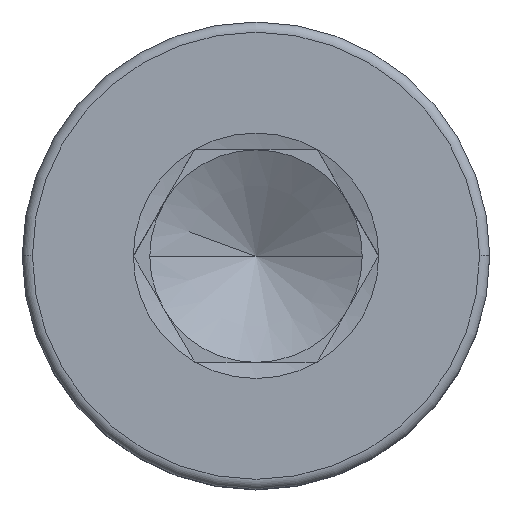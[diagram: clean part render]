
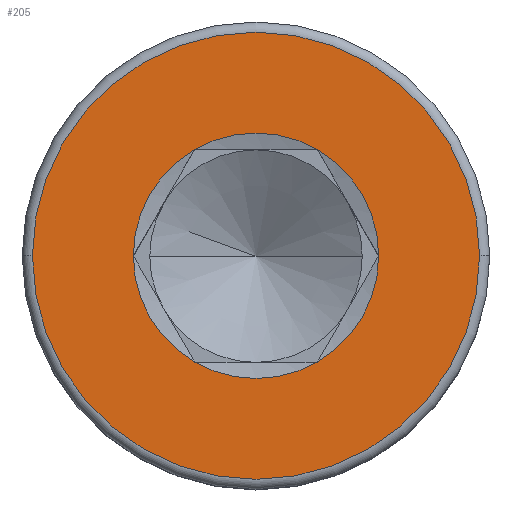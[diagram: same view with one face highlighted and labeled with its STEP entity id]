
A CAD part, top view. The second image highlights one B-rep face of the part: STEP entity #205.
In plain terms, the highlighted planar face has unit normal (0, 0, 1).
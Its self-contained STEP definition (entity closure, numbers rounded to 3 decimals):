
#9 = EDGE_LOOP ( 'NONE', ( #14, #470, #943, #1141, #979, #1575 ) ) ;
#14 = ORIENTED_EDGE ( 'NONE', *, *, #1843, .F. ) ;
#38 = DIRECTION ( 'NONE',  ( 0., 0., 1. ) ) ;
#52 = DIRECTION ( 'NONE',  ( 1., 0., 0. ) ) ;
#74 = VERTEX_POINT ( 'NONE', #1741 ) ;
#173 = CIRCLE ( 'NONE', #1610, 1.443 ) ;
#175 = CIRCLE ( 'NONE', #906, 1.443 ) ;
#186 = CARTESIAN_POINT ( 'NONE',  ( 0., 0., 3. ) ) ;
#205 = ADVANCED_FACE ( 'NONE', ( #920, #1188 ), #621, .T. ) ;
#206 = DIRECTION ( 'NONE',  ( 1., 0., 0. ) ) ;
#221 = CARTESIAN_POINT ( 'NONE',  ( -0.722, -1.25, 3. ) ) ;
#239 = CIRCLE ( 'NONE', #1788, 2.63 ) ;
#249 = DIRECTION ( 'NONE',  ( 0., 0., 1. ) ) ;
#321 = AXIS2_PLACEMENT_3D ( 'NONE', #186, #773, #52 ) ;
#380 = DIRECTION ( 'NONE',  ( 1., 0., 0. ) ) ;
#391 = VERTEX_POINT ( 'NONE', #1097 ) ;
#405 = EDGE_CURVE ( 'NONE', #1495, #1871, #239, .T. ) ;
#443 = CARTESIAN_POINT ( 'NONE',  ( 0.722, -1.25, 3. ) ) ;
#456 = DIRECTION ( 'NONE',  ( 0., 0., 1. ) ) ;
#470 = ORIENTED_EDGE ( 'NONE', *, *, #1595, .F. ) ;
#476 = CIRCLE ( 'NONE', #543, 1.443 ) ;
#484 = EDGE_LOOP ( 'NONE', ( #1581, #1534 ) ) ;
#512 = CARTESIAN_POINT ( 'NONE',  ( 0., 0., 3. ) ) ;
#517 = VERTEX_POINT ( 'NONE', #1267 ) ;
#541 = AXIS2_PLACEMENT_3D ( 'NONE', #1781, #456, #1319 ) ;
#543 = AXIS2_PLACEMENT_3D ( 'NONE', #1728, #1240, #1569 ) ;
#567 = CIRCLE ( 'NONE', #1549, 2.63 ) ;
#621 = PLANE ( 'NONE',  #541 ) ;
#624 = VERTEX_POINT ( 'NONE', #997 ) ;
#675 = VERTEX_POINT ( 'NONE', #443 ) ;
#722 = CIRCLE ( 'NONE', #1083, 1.443 ) ;
#754 = EDGE_CURVE ( 'NONE', #74, #517, #722, .T. ) ;
#773 = DIRECTION ( 'NONE',  ( 0., 0., 1. ) ) ;
#776 = AXIS2_PLACEMENT_3D ( 'NONE', #1352, #38, #1513 ) ;
#824 = EDGE_CURVE ( 'NONE', #517, #391, #1857, .T. ) ;
#825 = DIRECTION ( 'NONE',  ( 0., 0., 1. ) ) ;
#831 = DIRECTION ( 'NONE',  ( 1., 0., 0. ) ) ;
#890 = CARTESIAN_POINT ( 'NONE',  ( 2.63, 0., 3. ) ) ;
#906 = AXIS2_PLACEMENT_3D ( 'NONE', #1027, #1468, #1614 ) ;
#920 = FACE_OUTER_BOUND ( 'NONE', #484, .T. ) ;
#943 = ORIENTED_EDGE ( 'NONE', *, *, #1449, .F. ) ;
#979 = ORIENTED_EDGE ( 'NONE', *, *, #824, .F. ) ;
#997 = CARTESIAN_POINT ( 'NONE',  ( 1.443, 0., 3. ) ) ;
#1027 = CARTESIAN_POINT ( 'NONE',  ( 0., 0., 3. ) ) ;
#1083 = AXIS2_PLACEMENT_3D ( 'NONE', #1236, #1354, #206 ) ;
#1097 = CARTESIAN_POINT ( 'NONE',  ( -1.443, 0., 3. ) ) ;
#1126 = DIRECTION ( 'NONE',  ( 1., 0., 0. ) ) ;
#1141 = ORIENTED_EDGE ( 'NONE', *, *, #1272, .F. ) ;
#1188 = FACE_BOUND ( 'NONE', #9, .T. ) ;
#1231 = CARTESIAN_POINT ( 'NONE',  ( 0., 0., 3. ) ) ;
#1236 = CARTESIAN_POINT ( 'NONE',  ( 0., 0., 3. ) ) ;
#1240 = DIRECTION ( 'NONE',  ( 0., 0., 1. ) ) ;
#1267 = CARTESIAN_POINT ( 'NONE',  ( -0.722, 1.25, 3. ) ) ;
#1270 = CARTESIAN_POINT ( 'NONE',  ( 0., 0., 3. ) ) ;
#1272 = EDGE_CURVE ( 'NONE', #391, #1552, #1304, .T. ) ;
#1275 = EDGE_CURVE ( 'NONE', #1871, #1495, #567, .T. ) ;
#1304 = CIRCLE ( 'NONE', #776, 1.443 ) ;
#1319 = DIRECTION ( 'NONE',  ( 1., 0., 0. ) ) ;
#1352 = CARTESIAN_POINT ( 'NONE',  ( 0., 0., 3. ) ) ;
#1354 = DIRECTION ( 'NONE',  ( 0., 0., 1. ) ) ;
#1369 = CARTESIAN_POINT ( 'NONE',  ( -2.63, 0., 3. ) ) ;
#1380 = DIRECTION ( 'NONE',  ( 0., 0., 1. ) ) ;
#1449 = EDGE_CURVE ( 'NONE', #1552, #675, #173, .T. ) ;
#1468 = DIRECTION ( 'NONE',  ( 0., 0., 1. ) ) ;
#1495 = VERTEX_POINT ( 'NONE', #1369 ) ;
#1513 = DIRECTION ( 'NONE',  ( 1., 0., 0. ) ) ;
#1534 = ORIENTED_EDGE ( 'NONE', *, *, #405, .T. ) ;
#1549 = AXIS2_PLACEMENT_3D ( 'NONE', #512, #1380, #1126 ) ;
#1552 = VERTEX_POINT ( 'NONE', #221 ) ;
#1569 = DIRECTION ( 'NONE',  ( 1., 0., 0. ) ) ;
#1575 = ORIENTED_EDGE ( 'NONE', *, *, #754, .F. ) ;
#1581 = ORIENTED_EDGE ( 'NONE', *, *, #1275, .T. ) ;
#1595 = EDGE_CURVE ( 'NONE', #675, #624, #476, .T. ) ;
#1610 = AXIS2_PLACEMENT_3D ( 'NONE', #1231, #825, #380 ) ;
#1614 = DIRECTION ( 'NONE',  ( 1., 0., 0. ) ) ;
#1728 = CARTESIAN_POINT ( 'NONE',  ( 0., 0., 3. ) ) ;
#1741 = CARTESIAN_POINT ( 'NONE',  ( 0.722, 1.25, 3. ) ) ;
#1781 = CARTESIAN_POINT ( 'NONE',  ( 0., 0., 3. ) ) ;
#1788 = AXIS2_PLACEMENT_3D ( 'NONE', #1270, #249, #831 ) ;
#1843 = EDGE_CURVE ( 'NONE', #624, #74, #175, .T. ) ;
#1857 = CIRCLE ( 'NONE', #321, 1.443 ) ;
#1871 = VERTEX_POINT ( 'NONE', #890 ) ;
